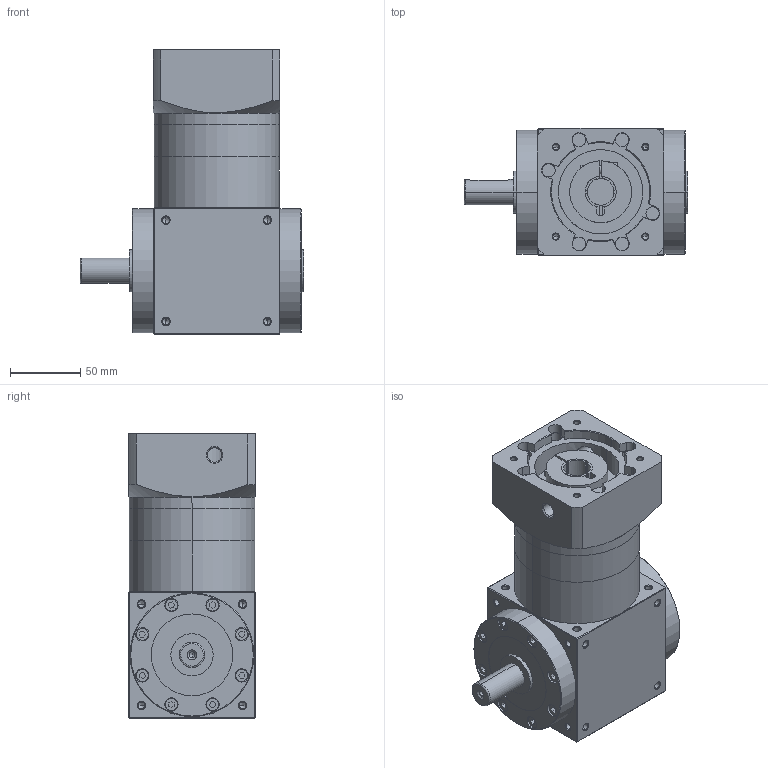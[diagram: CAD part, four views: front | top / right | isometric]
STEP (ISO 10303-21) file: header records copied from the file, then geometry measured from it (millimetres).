
FILE_DESCRIPTION (( 'STEP AP203' ), '1' );
FILE_NAME ('AT090-FL1-L2-19-70-90M5.STEP', '2025-12-11T02:46:23', ( 'Windows User' ), ( 'P R C' ), 'SwSTEP 2.0', 'SolidWorks 2016', '' );
FILE_SCHEMA (( 'CONFIG_CONTROL_DESIGN' ));
Length unit declared in the file: millimetre
Products named in the file (6): AT90-转角箱体-左单轴-输出; AT90蛌倰怀堤楊擘; AT90单级齿圈; AT90-输入法兰-A-70-M5-90; 输入胀套-22; AT090-FL1-L2-19-70-90M5
Assembly tree (5 placements, depth 2):
  AT090-FL1-L2-19-70-90M5
    AT90-转角箱体-左单轴-输出
    AT90蛌倰怀堤楊擘
    AT90单级齿圈
    AT90-输入法兰-A-70-M5-90
    输入胀套-22
Bounding box: 159 x 90 x 202 mm (x, y, z)
Volume: 1212625.3 mm3; surface area: 200403.4 mm2
Topology: 5 solids, 17 shells, 1418 faces, 3591 edges, 2258 vertices
Faces by surface type: plane 700, cylinder 315, cone 236, bspline 167
Entity records: 49796 total; most frequent: CARTESIAN_POINT 16645, ORIENTED_EDGE 6994, DIRECTION 6160, EDGE_CURVE 3497, VECTOR 2270, LINE 2270, VERTEX_POINT 2258, AXIS2_PLACEMENT_3D 1945
